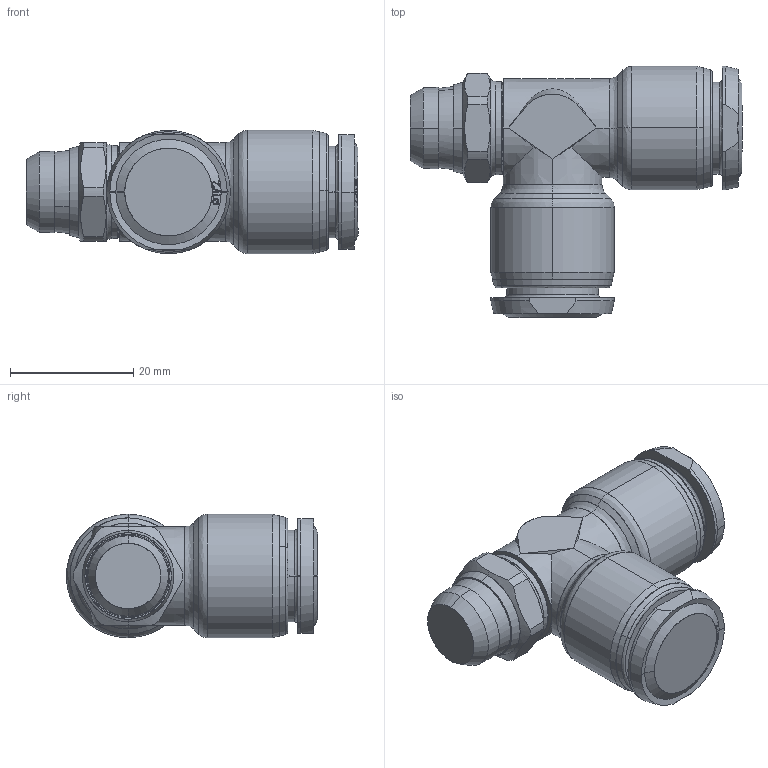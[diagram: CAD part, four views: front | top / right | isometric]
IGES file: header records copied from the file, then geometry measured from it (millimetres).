
Start section: SolidWorks IGES file using analytic representation for surfaces
Global section: file name: C:\Users\Cad01\Desktop\assiemi alfa\85222\8522300014A.igs; native system: SolidWorks 2012; preprocessor: SolidWorks 2012; author: Cad01; date: 121105.163655; units: millimetre
Bounding box: 53.8 x 40.7 x 20 mm (x, y, z)
Surface area: 5461.1 mm2 (no closed solid volume)
Topology: 0 solids, 0 shells, 225 faces, 2315 edges, 2315 vertices
Faces by surface type: bspline 137, revolution 88
